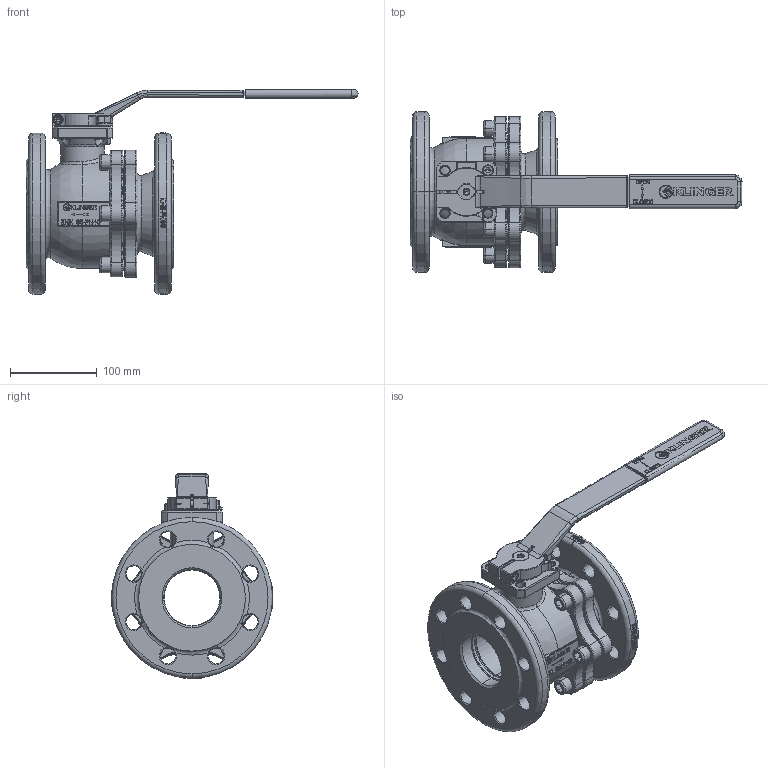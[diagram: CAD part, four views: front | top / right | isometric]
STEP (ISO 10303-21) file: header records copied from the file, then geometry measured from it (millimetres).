
FILE_DESCRIPTION((''),'2;1');
FILE_NAME('KHEFK065VFK065P040PKK','2015-08-07T',('mahrhauserh'),('RAND'),'PRO/ENGINEER BY PARAMETRIC TECHNOLOGY CORPORATION, 2013410','PRO/ENGINEER BY PARAMETRIC TECHNOLOGY CORPORATION, 2013410','');
FILE_SCHEMA(('CONFIG_CONTROL_DESIGN'));
Products named in the file (1): KHEFK065VFK065P040PKK
Bounding box: 382 x 185.9 x 236 mm (x, y, z)
Volume: 2100394.2 mm3; surface area: 394697 mm2
Topology: 1 solids, 1 shells, 3228 faces, 8527 edges, 5408 vertices
Faces by surface type: plane 1989, cylinder 479, torus 335, bspline 239, cone 151, sphere 35
Entity records: 122087 total; most frequent: CARTESIAN_POINT 43856, ORIENTED_EDGE 17018, DIRECTION 15368, EDGE_CURVE 8509, VERTEX_POINT 5408, VECTOR 5168, LINE 5168, AXIS2_PLACEMENT_3D 5100
